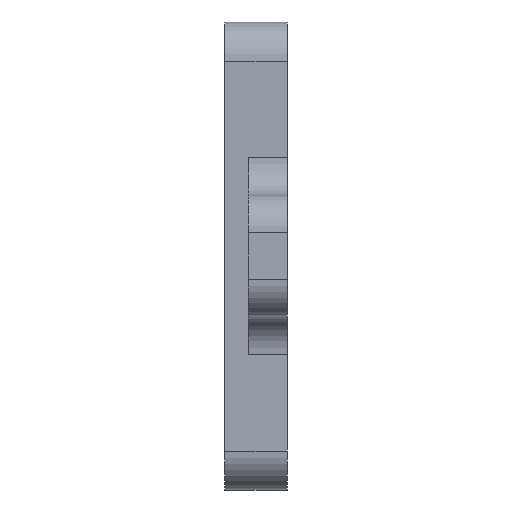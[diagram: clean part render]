
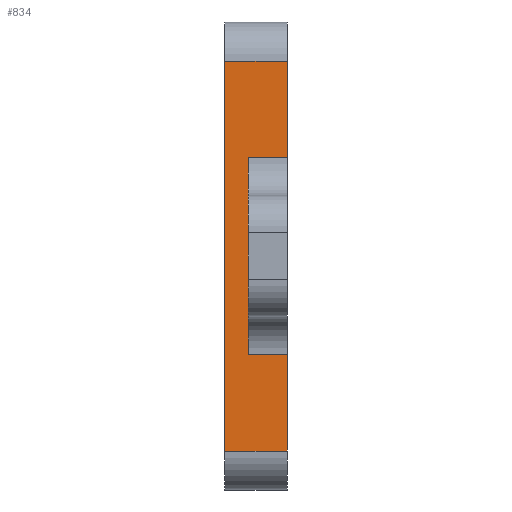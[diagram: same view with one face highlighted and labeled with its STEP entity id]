
A CAD part, left-side view. The second image highlights one B-rep face of the part: STEP entity #834.
In plain terms, the highlighted planar face has unit normal (-1, 0, 0).
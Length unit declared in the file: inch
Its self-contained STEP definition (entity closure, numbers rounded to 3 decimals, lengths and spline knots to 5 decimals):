
#42=PLANE('',#948);
#82=FACE_OUTER_BOUND('',#131,.T.);
#131=EDGE_LOOP('',(#707,#708,#709,#710,#711,#712,#713,#714));
#163=LINE('',#1286,#231);
#182=LINE('',#1368,#250);
#183=LINE('',#1374,#251);
#189=LINE('',#1394,#257);
#204=LINE('',#1440,#272);
#205=LINE('',#1443,#273);
#206=LINE('',#1444,#274);
#207=LINE('',#1445,#275);
#231=VECTOR('',#1023,0.3937);
#250=VECTOR('',#1108,0.3937);
#251=VECTOR('',#1113,0.3937);
#257=VECTOR('',#1137,0.3937);
#272=VECTOR('',#1192,0.3937);
#273=VECTOR('',#1195,0.3937);
#274=VECTOR('',#1196,0.3937);
#275=VECTOR('',#1197,0.3937);
#358=VERTEX_POINT('',#1283);
#359=VERTEX_POINT('',#1285);
#386=VERTEX_POINT('',#1361);
#389=VERTEX_POINT('',#1366);
#391=VERTEX_POINT('',#1371);
#392=VERTEX_POINT('',#1373);
#408=VERTEX_POINT('',#1438);
#409=VERTEX_POINT('',#1442);
#445=EDGE_CURVE('',#358,#359,#163,.T.);
#486=EDGE_CURVE('',#389,#386,#182,.T.);
#488=EDGE_CURVE('',#392,#391,#183,.T.);
#499=EDGE_CURVE('',#389,#392,#189,.T.);
#522=EDGE_CURVE('',#358,#408,#204,.T.);
#523=EDGE_CURVE('',#409,#391,#205,.T.);
#524=EDGE_CURVE('',#359,#409,#206,.T.);
#525=EDGE_CURVE('',#386,#408,#207,.T.);
#707=ORIENTED_EDGE('',*,*,#488,.T.);
#708=ORIENTED_EDGE('',*,*,#523,.F.);
#709=ORIENTED_EDGE('',*,*,#524,.F.);
#710=ORIENTED_EDGE('',*,*,#445,.F.);
#711=ORIENTED_EDGE('',*,*,#522,.T.);
#712=ORIENTED_EDGE('',*,*,#525,.F.);
#713=ORIENTED_EDGE('',*,*,#486,.F.);
#714=ORIENTED_EDGE('',*,*,#499,.T.);
#834=ADVANCED_FACE('',(#82),#42,.T.);
#948=AXIS2_PLACEMENT_3D('',#1441,#1193,#1194);
#1023=DIRECTION('',(0.,0.,1.));
#1108=DIRECTION('',(0.,-1.,0.));
#1113=DIRECTION('',(0.,-1.,0.));
#1137=DIRECTION('',(0.,0.,1.));
#1192=DIRECTION('',(0.,-1.,0.));
#1193=DIRECTION('center_axis',(-1.,0.,0.));
#1194=DIRECTION('ref_axis',(0.,0.,-1.));
#1195=DIRECTION('',(0.,0.,-1.));
#1196=DIRECTION('',(0.,-1.,0.));
#1197=DIRECTION('',(0.,0.,-1.));
#1283=CARTESIAN_POINT('',(-0.57,0.,-0.625));
#1285=CARTESIAN_POINT('',(-0.57,0.,0.625));
#1286=CARTESIAN_POINT('',(-0.57,0.,-0.625));
#1361=CARTESIAN_POINT('',(-0.57,-0.2,-0.315));
#1366=CARTESIAN_POINT('',(-0.57,-0.075,-0.315));
#1368=CARTESIAN_POINT('',(-0.57,-0.2,-0.315));
#1371=CARTESIAN_POINT('',(-0.57,-0.2,0.315));
#1373=CARTESIAN_POINT('',(-0.57,-0.075,0.315));
#1374=CARTESIAN_POINT('',(-0.57,-0.2,0.315));
#1394=CARTESIAN_POINT('',(-0.57,-0.075,0.3125));
#1438=CARTESIAN_POINT('',(-0.57,-0.2,-0.625));
#1440=CARTESIAN_POINT('',(-0.57,0.,-0.625));
#1441=CARTESIAN_POINT('Origin',(-0.57,0.,0.625));
#1442=CARTESIAN_POINT('',(-0.57,-0.2,0.625));
#1443=CARTESIAN_POINT('',(-0.57,-0.2,-0.625));
#1444=CARTESIAN_POINT('',(-0.57,0.,0.625));
#1445=CARTESIAN_POINT('',(-0.57,-0.2,-0.625));
